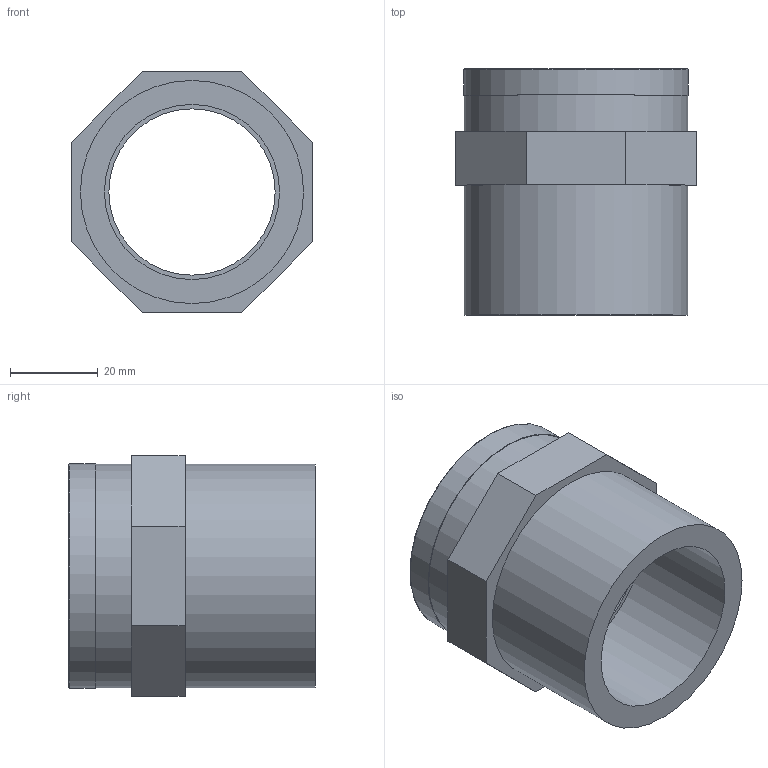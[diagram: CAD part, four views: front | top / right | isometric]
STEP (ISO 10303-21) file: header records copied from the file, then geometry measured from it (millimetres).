
FILE_DESCRIPTION(/* description */ (''),/* implementation_level */ '2;1');
FILE_NAME(/* name */ 'C:\Users\POLYPIPE\Desktop\DATASET INVENTOR\LIBRERIA EFFAST\RACCORDI 3DxWEB\RGR\3D_RGRMAR\3D_RGRMAR040E.stp',/* time_stamp */ '2018-01-19T17:52:40+01:00',/* author */ ('POLYPIPE'),/* organization */ (''),/* preprocessor_version */ 'ST-DEVELOPER v16.1',/* originating_system */ 'Autodesk Inventor 2016',/* authorisation */ '');
FILE_SCHEMA (('CONFIG_CONTROL_DESIGN'));
Length unit declared in the file: centimetre
Products named in the file (1): 3D_RGRMAR040E
Bounding box: 55 x 56.25 x 55 mm (x, y, z)
Volume: 50416.1 mm3; surface area: 20853.3 mm2
Topology: 1 solids, 1 shells, 30 faces, 63 edges, 41 vertices
Faces by surface type: plane 17, cylinder 7, bspline 5, torus 1
Full cylindrical faces by diameter (mm): 38 x1, 38.952 x1, 40 x1, 45 x1, 51 x2, 51.3 x1
Entity records: 4176 total; most frequent: CARTESIAN_POINT 3511, DIRECTION 113, ORIENTED_EDGE 110, EDGE_CURVE 55, EDGE_LOOP 45, AXIS2_PLACEMENT_3D 43, VERTEX_POINT 40, STYLED_ITEM 31
